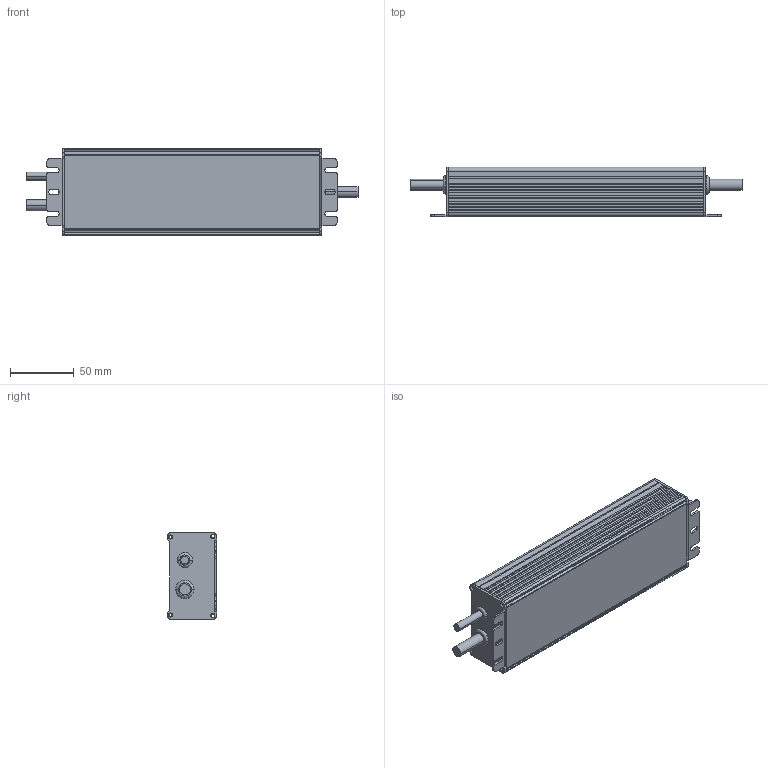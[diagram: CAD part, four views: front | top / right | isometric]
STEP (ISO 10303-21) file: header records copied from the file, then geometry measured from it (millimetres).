
FILE_DESCRIPTION((''),'2;1');
FILE_NAME('HLG-150_ASM','2023-11-01T09:36:08',('shalinice'),(''),'CREO PARAMETRIC BY PTC INC, 2017110','CREO PARAMETRIC BY PTC INC, 2017110','');
FILE_SCHEMA(('AUTOMOTIVE_DESIGN { 1 0 10303 214 1 1 1 1 }'));
Length unit declared in the file: millimetre
Products named in the file (8): 994B-D; 994D-T; 994LR-R; 994A-R; RING1; RING2; RING3; HLG-150_ASM
Assembly tree (7 placements, depth 2):
  HLG-150_ASM
    994B-D
    994D-T
    994LR-R
    994A-R
    RING1
    RING2
    RING3
Bounding box: 260.8 x 38.8 x 68 mm (x, y, z)
Volume: 99197.5 mm3; surface area: 110833.9 mm2
Topology: 7 solids, 7 shells, 355 faces, 941 edges, 618 vertices
Faces by surface type: plane 195, cylinder 148, torus 12
Entity records: 14024 total; most frequent: DIRECTION 2001, CARTESIAN_POINT 1951, ORIENTED_EDGE 1882, EDGE_CURVE 941, AXIS2_PLACEMENT_3D 690, VECTOR 621, LINE 621, VERTEX_POINT 618
